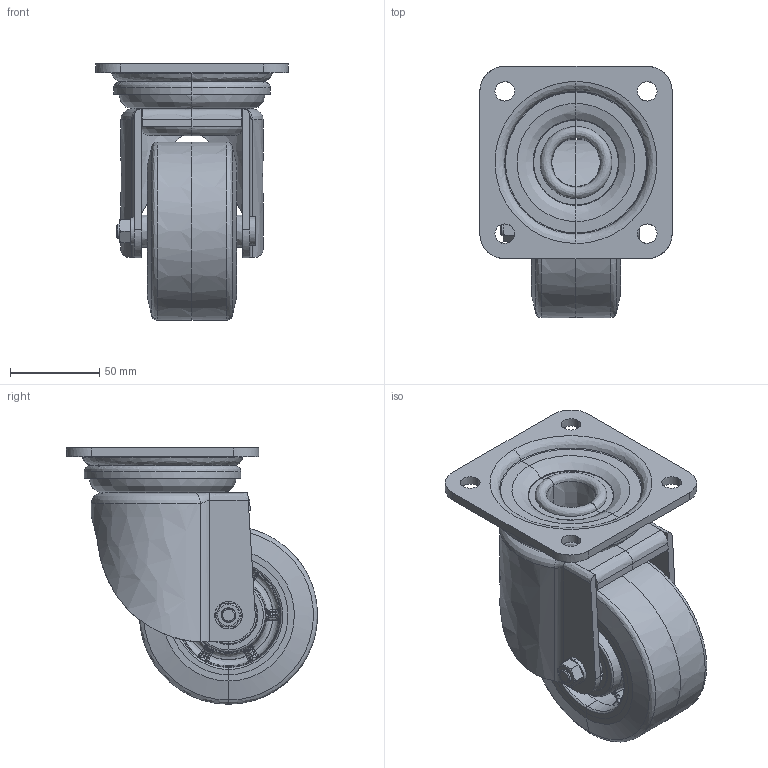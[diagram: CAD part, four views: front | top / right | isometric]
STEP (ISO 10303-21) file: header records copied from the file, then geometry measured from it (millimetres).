
FILE_DESCRIPTION (( 'STEP AP214' ), '1' );
FILE_NAME ('HP-100WJ.STEP', '2024-11-30T00:32:06', ( 'sakai' ), ( 'Hewlett-Packard' ), 'SwSTEP 2.0', 'SolidWorks 2010', '' );
FILE_SCHEMA (( 'AUTOMOTIVE_DESIGN' ));
Length unit declared in the file: millimetre
Products named in the file (12): HP-100WJ-10; HP-100WJ-11; HP-100WJ-12; HP-100WJ-13; HP-100WJ-14; HP-100WJ-15; HP-100WJ-16; HP-100WJ-17; HP-100WJ-18; HP-100WJ-19; HP-100WJ-20; HP-100WJ
Assembly tree (11 placements, depth 2):
  HP-100WJ
    HP-100WJ-10
    HP-100WJ-13
    HP-100WJ-15
    HP-100WJ-12
    HP-100WJ-17
    HP-100WJ-19
    HP-100WJ-18
    HP-100WJ-16
    HP-100WJ-20
    HP-100WJ-11
    HP-100WJ-14
Bounding box: 108 x 141 x 144 mm (x, y, z)
Volume: 494436.7 mm3; surface area: 181222.2 mm2
Topology: 14 solids, 14 shells, 715 faces, 1649 edges, 939 vertices
Faces by surface type: bspline 638, plane 77
Entity records: 81972 total; most frequent: CARTESIAN_POINT 70031, ORIENTED_EDGE 3298, EDGE_CURVE 1649, B_SPLINE_CURVE_WITH_KNOTS 1562, VERTEX_POINT 939, EDGE_LOOP 732, FACE_OUTER_BOUND 715, ADVANCED_FACE 715
